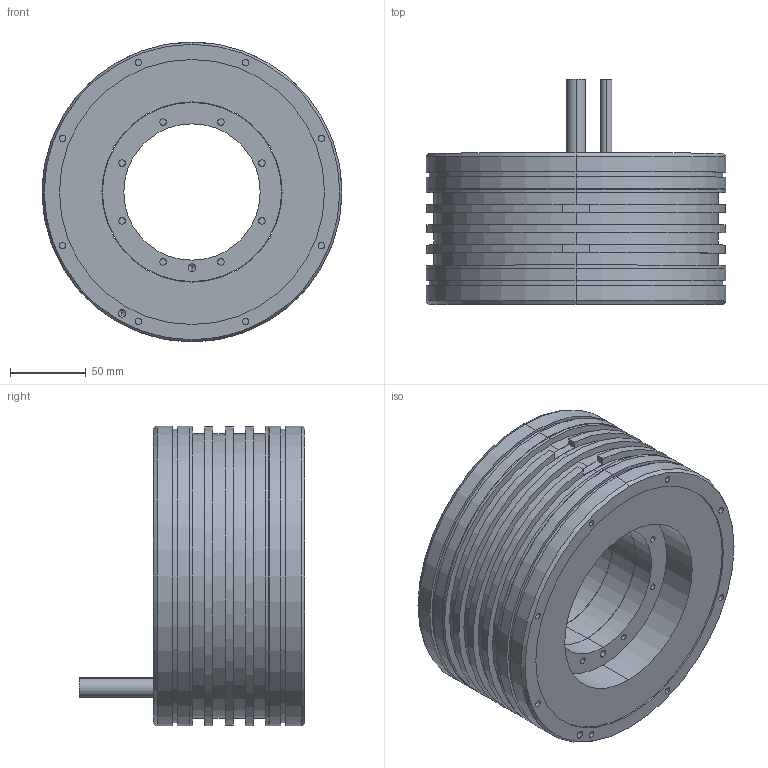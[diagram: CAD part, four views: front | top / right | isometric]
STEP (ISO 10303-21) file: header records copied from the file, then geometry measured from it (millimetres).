
FILE_DESCRIPTION (( 'STEP AP203' ), '1' );
FILE_NAME ('TM-2-25.STEP', '2020-10-20T05:38:02', ( '' ), ( '' ), 'SwSTEP 2.0', 'SolidWorks 2015', '' );
FILE_SCHEMA (( 'CONFIG_CONTROL_DESIGN' ));
Length unit declared in the file: millimetre
Products named in the file (3): TM-2-2X_rotor_TM-2-25_rotor; TM-2-25; TM-2-2X_stator_TM-2-25_stator
Assembly tree (2 placements, depth 2):
  TM-2-25
    TM-2-2X_stator_TM-2-25_stator
    TM-2-2X_rotor_TM-2-25_rotor
Bounding box: 198 x 149 x 198 mm (x, y, z)
Volume: 2066067 mm3; surface area: 216549.7 mm2
Topology: 2 solids, 2 shells, 198 faces, 418 edges, 264 vertices
Faces by surface type: cylinder 119, plane 63, cone 16
Entity records: 5645 total; most frequent: DIRECTION 1058, CARTESIAN_POINT 877, ORIENTED_EDGE 820, AXIS2_PLACEMENT_3D 445, EDGE_CURVE 410, VERTEX_POINT 264, EDGE_LOOP 250, CIRCLE 242
